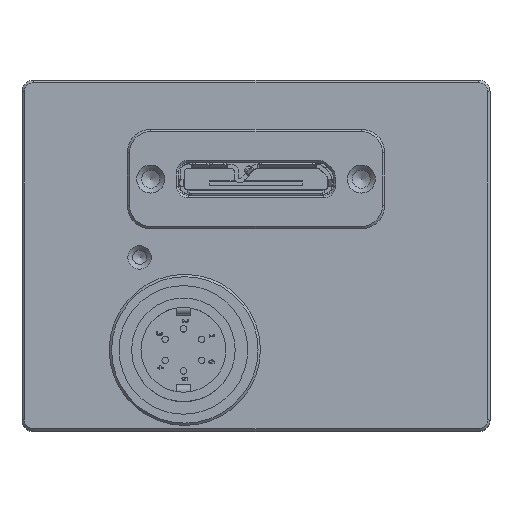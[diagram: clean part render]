
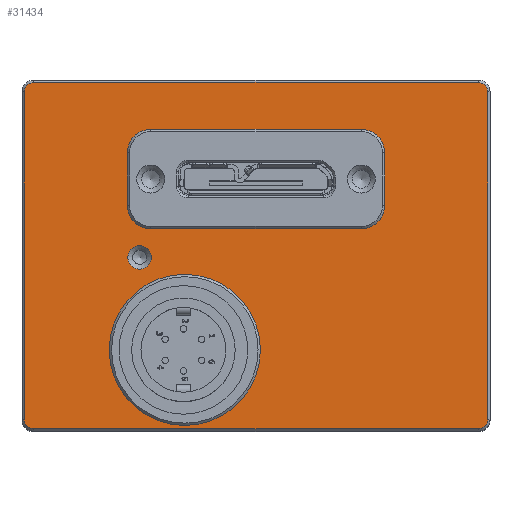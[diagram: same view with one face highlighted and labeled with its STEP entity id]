
A CAD part, top view. The second image highlights one B-rep face of the part: STEP entity #31434.
In plain terms, the highlighted planar face has unit normal (0, 0, 1).
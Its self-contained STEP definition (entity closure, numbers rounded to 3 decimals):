
#3090=LINE('',#56410,#5857);
#3094=LINE('',#56422,#5861);
#3104=LINE('',#56493,#5871);
#3105=LINE('',#56497,#5872);
#3106=LINE('',#56501,#5873);
#3107=LINE('',#56505,#5874);
#3108=LINE('',#56510,#5875);
#3109=LINE('',#56514,#5876);
#5857=VECTOR('',#40459,4.5);
#5861=VECTOR('',#40471,18.);
#5871=VECTOR('',#40553,38.);
#5872=VECTOR('',#40556,28.);
#5873=VECTOR('',#40559,38.);
#5874=VECTOR('',#40562,28.);
#5875=VECTOR('',#40567,18.);
#5876=VECTOR('',#40570,4.5);
#7154=FACE_BOUND('',#10444,.T.);
#7155=FACE_BOUND('',#10445,.T.);
#7156=FACE_BOUND('',#10446,.T.);
#8659=FACE_OUTER_BOUND('',#10443,.T.);
#10443=EDGE_LOOP('',(#26761,#26762,#26763,#26764,#26765,#26766,#26767,#26768));
#10444=EDGE_LOOP('',(#26769));
#10445=EDGE_LOOP('',(#26770));
#10446=EDGE_LOOP('',(#26771,#26772,#26773,#26774,#26775,#26776,#26777,#26778));
#11253=CIRCLE('',#33566,2.);
#11255=CIRCLE('',#33570,2.);
#11273=CIRCLE('',#33605,1.);
#11274=CIRCLE('',#33608,0.8);
#11275=CIRCLE('',#33609,0.8);
#11276=CIRCLE('',#33610,0.8);
#11277=CIRCLE('',#33611,0.8);
#11278=CIRCLE('',#33612,6.46);
#11279=CIRCLE('',#33613,2.);
#11280=CIRCLE('',#33614,2.);
#14126=VERTEX_POINT('',#56400);
#14127=VERTEX_POINT('',#56402);
#14129=VERTEX_POINT('',#56408);
#14131=VERTEX_POINT('',#56414);
#14133=VERTEX_POINT('',#56420);
#14156=VERTEX_POINT('',#56487);
#14157=VERTEX_POINT('',#56491);
#14158=VERTEX_POINT('',#56492);
#14159=VERTEX_POINT('',#56494);
#14160=VERTEX_POINT('',#56496);
#14161=VERTEX_POINT('',#56498);
#14162=VERTEX_POINT('',#56500);
#14163=VERTEX_POINT('',#56502);
#14164=VERTEX_POINT('',#56504);
#14165=VERTEX_POINT('',#56507);
#14166=VERTEX_POINT('',#56509);
#14167=VERTEX_POINT('',#56511);
#14168=VERTEX_POINT('',#56513);
#18332=EDGE_CURVE('',#14127,#14126,#11253,.T.);
#18336=EDGE_CURVE('',#14126,#14129,#3090,.T.);
#18339=EDGE_CURVE('',#14129,#14131,#11255,.T.);
#18342=EDGE_CURVE('',#14131,#14133,#3094,.T.);
#18369=EDGE_CURVE('',#14156,#14156,#11273,.T.);
#18370=EDGE_CURVE('',#14157,#14158,#3104,.T.);
#18371=EDGE_CURVE('',#14159,#14157,#11274,.T.);
#18372=EDGE_CURVE('',#14160,#14159,#3105,.T.);
#18373=EDGE_CURVE('',#14161,#14160,#11275,.T.);
#18374=EDGE_CURVE('',#14162,#14161,#3106,.T.);
#18375=EDGE_CURVE('',#14163,#14162,#11276,.T.);
#18376=EDGE_CURVE('',#14164,#14163,#3107,.T.);
#18377=EDGE_CURVE('',#14158,#14164,#11277,.T.);
#18378=EDGE_CURVE('',#14165,#14165,#11278,.T.);
#18379=EDGE_CURVE('',#14166,#14127,#3108,.T.);
#18380=EDGE_CURVE('',#14133,#14167,#11279,.T.);
#18381=EDGE_CURVE('',#14167,#14168,#3109,.T.);
#18382=EDGE_CURVE('',#14168,#14166,#11280,.T.);
#26761=ORIENTED_EDGE('',*,*,#18370,.F.);
#26762=ORIENTED_EDGE('',*,*,#18371,.F.);
#26763=ORIENTED_EDGE('',*,*,#18372,.F.);
#26764=ORIENTED_EDGE('',*,*,#18373,.F.);
#26765=ORIENTED_EDGE('',*,*,#18374,.F.);
#26766=ORIENTED_EDGE('',*,*,#18375,.F.);
#26767=ORIENTED_EDGE('',*,*,#18376,.F.);
#26768=ORIENTED_EDGE('',*,*,#18377,.F.);
#26769=ORIENTED_EDGE('',*,*,#18369,.F.);
#26770=ORIENTED_EDGE('',*,*,#18378,.T.);
#26771=ORIENTED_EDGE('',*,*,#18379,.T.);
#26772=ORIENTED_EDGE('',*,*,#18332,.T.);
#26773=ORIENTED_EDGE('',*,*,#18336,.T.);
#26774=ORIENTED_EDGE('',*,*,#18339,.T.);
#26775=ORIENTED_EDGE('',*,*,#18342,.T.);
#26776=ORIENTED_EDGE('',*,*,#18380,.T.);
#26777=ORIENTED_EDGE('',*,*,#18381,.T.);
#26778=ORIENTED_EDGE('',*,*,#18382,.T.);
#28349=PLANE('',#33607);
#31434=ADVANCED_FACE('',(#8659,#7154,#7155,#7156),#28349,.F.);
#33566=AXIS2_PLACEMENT_3D('',#56403,#40452,#40453);
#33570=AXIS2_PLACEMENT_3D('',#56416,#40465,#40466);
#33605=AXIS2_PLACEMENT_3D('',#56488,#40547,#40548);
#33607=AXIS2_PLACEMENT_3D('',#56490,#40551,#40552);
#33608=AXIS2_PLACEMENT_3D('',#56495,#40554,#40555);
#33609=AXIS2_PLACEMENT_3D('',#56499,#40557,#40558);
#33610=AXIS2_PLACEMENT_3D('',#56503,#40560,#40561);
#33611=AXIS2_PLACEMENT_3D('',#56506,#40563,#40564);
#33612=AXIS2_PLACEMENT_3D('',#56508,#40565,#40566);
#33613=AXIS2_PLACEMENT_3D('',#56512,#40568,#40569);
#33614=AXIS2_PLACEMENT_3D('',#56515,#40571,#40572);
#40452=DIRECTION('center_axis',(0.,0.,
-1.));
#40453=DIRECTION('ref_axis',(0.,1.,0.));
#40459=DIRECTION('',(0.,-1.,0.));
#40465=DIRECTION('center_axis',(0.,0.,
-1.));
#40466=DIRECTION('ref_axis',(1.,0.,0.));
#40471=DIRECTION('',(-1.,0.,0.));
#40547=DIRECTION('center_axis',(0.,0.,
1.));
#40548=DIRECTION('ref_axis',(1.,0.,0.));
#40551=DIRECTION('center_axis',(0.,0.,
-1.));
#40552=DIRECTION('ref_axis',(1.,0.,0.));
#40553=DIRECTION('',(-1.,0.,0.));
#40554=DIRECTION('center_axis',(0.,0.,
-1.));
#40555=DIRECTION('ref_axis',(0.707,-0.707,0.));
#40556=DIRECTION('',(0.,-1.,0.));
#40557=DIRECTION('center_axis',(0.,0.,
-1.));
#40558=DIRECTION('ref_axis',(0.707,0.707,0.));
#40559=DIRECTION('',(1.,0.,0.));
#40560=DIRECTION('center_axis',(0.,0.,
-1.));
#40561=DIRECTION('ref_axis',(-0.707,0.707,0.));
#40562=DIRECTION('',(0.,1.,0.));
#40563=DIRECTION('center_axis',(0.,0.,
-1.));
#40564=DIRECTION('ref_axis',(-0.707,-0.707,0.));
#40565=DIRECTION('center_axis',(0.,0.,
-1.));
#40566=DIRECTION('ref_axis',(-1.,0.,0.));
#40567=DIRECTION('',(1.,0.,0.));
#40568=DIRECTION('center_axis',(0.,0.,
-1.));
#40569=DIRECTION('ref_axis',(0.,-1.,0.));
#40570=DIRECTION('',(0.,1.,0.));
#40571=DIRECTION('center_axis',(0.,0.,
-1.));
#40572=DIRECTION('ref_axis',(-1.,0.,0.));
#56400=CARTESIAN_POINT('',(11.,8.795,41.3));
#56402=CARTESIAN_POINT('',(9.,10.795,41.3));
#56403=CARTESIAN_POINT('Origin',(9.,8.795,41.3));
#56408=CARTESIAN_POINT('',(11.,4.295,41.3));
#56410=CARTESIAN_POINT('',(11.,2.147,41.3));
#56414=CARTESIAN_POINT('',(9.,2.295,41.3));
#56416=CARTESIAN_POINT('Origin',(9.,4.295,41.3));
#56420=CARTESIAN_POINT('',(-9.,2.295,41.3));
#56422=CARTESIAN_POINT('',(-4.5,2.295,41.3));
#56487=CARTESIAN_POINT('',(-10.95,-0.15,41.3));
#56488=CARTESIAN_POINT('Origin',(-9.95,-0.15,41.3));
#56490=CARTESIAN_POINT('Origin',(0.,0.,
41.3));
#56491=CARTESIAN_POINT('',(19.,-14.8,41.3));
#56492=CARTESIAN_POINT('',(-19.,-14.8,41.3));
#56493=CARTESIAN_POINT('',(-10.,-14.8,41.3));
#56494=CARTESIAN_POINT('',(19.8,-14.,41.3));
#56495=CARTESIAN_POINT('Origin',(19.,-14.,41.3));
#56496=CARTESIAN_POINT('',(19.8,14.,41.3));
#56497=CARTESIAN_POINT('',(19.8,-7.5,41.3));
#56498=CARTESIAN_POINT('',(19.,14.8,41.3));
#56499=CARTESIAN_POINT('Origin',(19.,14.,41.3));
#56500=CARTESIAN_POINT('',(-19.,14.8,41.3));
#56501=CARTESIAN_POINT('',(10.,14.8,41.3));
#56502=CARTESIAN_POINT('',(-19.8,14.,41.3));
#56503=CARTESIAN_POINT('Origin',(-19.,14.,41.3));
#56504=CARTESIAN_POINT('',(-19.8,-14.,41.3));
#56505=CARTESIAN_POINT('',(-19.8,7.5,41.3));
#56506=CARTESIAN_POINT('Origin',(-19.,-14.,41.3));
#56507=CARTESIAN_POINT('',(0.375,-8.06,41.3));
#56508=CARTESIAN_POINT('Origin',(-6.085,-8.06,41.3));
#56509=CARTESIAN_POINT('',(-9.,10.795,41.3));
#56510=CARTESIAN_POINT('',(4.5,10.795,41.3));
#56511=CARTESIAN_POINT('',(-11.,4.295,41.3));
#56512=CARTESIAN_POINT('Origin',(-9.,4.295,41.3));
#56513=CARTESIAN_POINT('',(-11.,8.795,41.3));
#56514=CARTESIAN_POINT('',(-11.,4.397,41.3));
#56515=CARTESIAN_POINT('Origin',(-9.,8.795,41.3));
